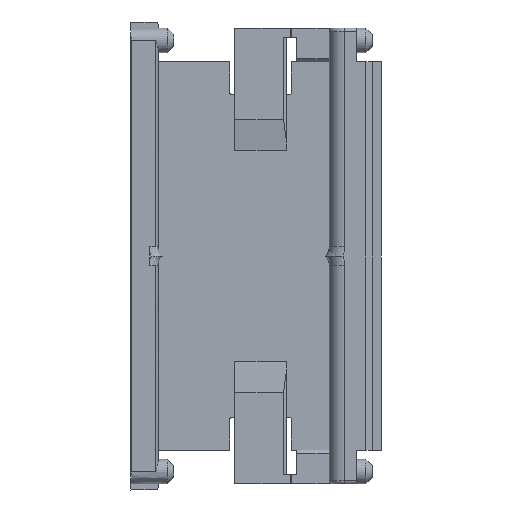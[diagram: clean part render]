
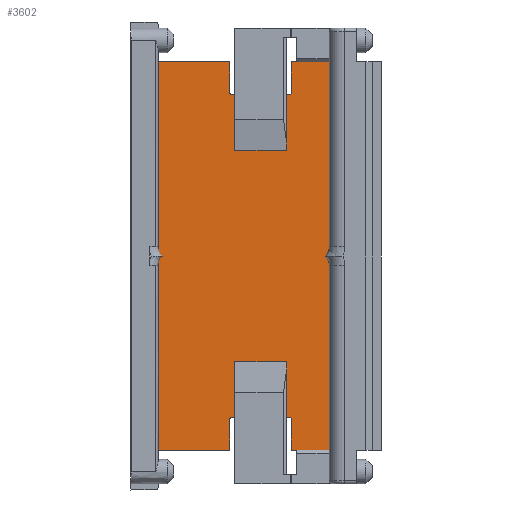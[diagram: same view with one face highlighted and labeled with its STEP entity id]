
A CAD part, front view. The second image highlights one B-rep face of the part: STEP entity #3602.
In plain terms, the highlighted planar face has unit normal (0, -1, 0).
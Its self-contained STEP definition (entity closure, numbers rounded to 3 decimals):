
#258=CARTESIAN_POINT('',(188.961,165.997,106.5));
#259=VERTEX_POINT('',#258);
#266=CARTESIAN_POINT('',(188.961,165.997,136.8));
#267=VERTEX_POINT('',#266);
#268=CARTESIAN_POINT('',(188.961,165.997,106.5));
#269=DIRECTION('',(0.0,0.0,1.0));
#270=VECTOR('',#269,30.3);
#271=LINE('',#268,#270);
#272=EDGE_CURVE('',#259,#267,#271,.T.);
#899=CARTESIAN_POINT('',(216.961,165.997,136.8));
#900=VERTEX_POINT('',#899);
#907=CARTESIAN_POINT('',(216.961,165.997,106.5));
#908=VERTEX_POINT('',#907);
#909=CARTESIAN_POINT('',(216.961,165.997,136.8));
#910=DIRECTION('',(0.0,0.0,-1.0));
#911=VECTOR('',#910,30.3);
#912=LINE('',#909,#911);
#913=EDGE_CURVE('',#900,#908,#912,.T.);
#1154=CARTESIAN_POINT('',(211.595,165.997,106.5));
#1155=VERTEX_POINT('',#1154);
#1229=CARTESIAN_POINT('',(216.961,165.997,106.5));
#1230=DIRECTION('',(-1.0,0.0,0.0));
#1231=VECTOR('',#1230,5.366);
#1232=LINE('',#1229,#1231);
#1233=EDGE_CURVE('',#908,#1155,#1232,.T.);
#1350=CARTESIAN_POINT('',(209.961,165.997,111.544));
#1351=VERTEX_POINT('',#1350);
#1358=CARTESIAN_POINT('',(209.961,165.997,121.));
#1359=VERTEX_POINT('',#1358);
#1360=CARTESIAN_POINT('',(209.961,165.997,111.544));
#1361=DIRECTION('',(0.0,0.0,1.0));
#1362=VECTOR('',#1361,9.456);
#1363=LINE('',#1360,#1362);
#1364=EDGE_CURVE('',#1351,#1359,#1363,.T.);
#1445=CARTESIAN_POINT('',(201.461,165.997,121.));
#1446=VERTEX_POINT('',#1445);
#1453=CARTESIAN_POINT('',(201.461,165.997,111.544));
#1454=VERTEX_POINT('',#1453);
#1455=CARTESIAN_POINT('',(201.461,165.997,121.));
#1456=DIRECTION('',(0.,0.0,-1.0));
#1457=VECTOR('',#1456,9.456);
#1458=LINE('',#1455,#1457);
#1459=EDGE_CURVE('',#1446,#1454,#1458,.T.);
#1559=CARTESIAN_POINT('',(209.961,165.997,121.));
#1560=DIRECTION('',(-1.0,0.0,0.0));
#1561=VECTOR('',#1560,8.5);
#1562=LINE('',#1559,#1561);
#1563=EDGE_CURVE('',#1359,#1446,#1562,.T.);
#1714=CARTESIAN_POINT('',(189.639,165.997,138.3));
#1715=VERTEX_POINT('',#1714);
#1724=CARTESIAN_POINT('',(190.961,165.997,136.8));
#1725=DIRECTION('',(0.0,1.0,0.0));
#1726=DIRECTION('',(1.0,0.0,0.0));
#1727=AXIS2_PLACEMENT_3D('',#1724,#1725,#1726);
#1728=CIRCLE('',#1727,2.0);
#1729=EDGE_CURVE('',#267,#1715,#1728,.T.);
#1760=CARTESIAN_POINT('',(216.284,165.997,138.3));
#1761=VERTEX_POINT('',#1760);
#1768=CARTESIAN_POINT('',(214.961,165.997,136.8));
#1769=DIRECTION('',(0.0,1.0,0.0));
#1770=DIRECTION('',(0.,0.0,-1.0));
#1771=AXIS2_PLACEMENT_3D('',#1768,#1769,#1770);
#1772=CIRCLE('',#1771,2.0);
#1773=EDGE_CURVE('',#1761,#900,#1772,.T.);
#1785=CARTESIAN_POINT('',(200.661,165.997,106.5));
#1786=VERTEX_POINT('',#1785);
#1787=CARTESIAN_POINT('',(200.661,165.997,111.544));
#1788=VERTEX_POINT('',#1787);
#1789=CARTESIAN_POINT('',(200.661,165.997,106.5));
#1790=DIRECTION('',(0.0,0.0,1.0));
#1791=VECTOR('',#1790,5.044);
#1792=LINE('',#1789,#1791);
#1793=EDGE_CURVE('',#1786,#1788,#1792,.T.);
#1846=CARTESIAN_POINT('',(201.061,165.997,111.544));
#1847=DIRECTION('',(0.0,1.0,0.0));
#1848=DIRECTION('',(1.0,0.0,0.0));
#1849=AXIS2_PLACEMENT_3D('',#1846,#1847,#1848);
#1850=CIRCLE('',#1849,0.4);
#1851=EDGE_CURVE('',#1788,#1454,#1850,.T.);
#1891=CARTESIAN_POINT('',(210.761,165.997,111.544));
#1892=VERTEX_POINT('',#1891);
#1893=CARTESIAN_POINT('',(210.361,165.997,111.544));
#1894=DIRECTION('',(0.0,1.0,0.0));
#1895=DIRECTION('',(1.0,0.0,0.0));
#1896=AXIS2_PLACEMENT_3D('',#1893,#1894,#1895);
#1897=CIRCLE('',#1896,0.4);
#1898=EDGE_CURVE('',#1351,#1892,#1897,.T.);
#1924=CARTESIAN_POINT('',(210.761,165.997,106.5));
#1925=VERTEX_POINT('',#1924);
#1926=CARTESIAN_POINT('',(210.761,165.997,111.544));
#1927=DIRECTION('',(0.0,0.0,-1.0));
#1928=VECTOR('',#1927,5.044);
#1929=LINE('',#1926,#1928);
#1930=EDGE_CURVE('',#1892,#1925,#1929,.T.);
#2366=CARTESIAN_POINT('',(210.761,165.997,106.5));
#2367=DIRECTION('',(1.0,0.0,0.0));
#2368=VECTOR('',#2367,0.834);
#2369=LINE('',#2366,#2368);
#2370=EDGE_CURVE('',#1925,#1155,#2369,.T.);
#2430=CARTESIAN_POINT('',(188.961,165.997,106.5));
#2431=DIRECTION('',(1.0,0.0,0.0));
#2432=VECTOR('',#2431,11.7);
#2433=LINE('',#2430,#2432);
#2434=EDGE_CURVE('',#259,#1786,#2433,.T.);
#2834=CARTESIAN_POINT('',(216.961,165.997,170.1));
#2835=VERTEX_POINT('',#2834);
#2842=CARTESIAN_POINT('',(216.961,165.997,139.8));
#2843=VERTEX_POINT('',#2842);
#2844=CARTESIAN_POINT('',(216.961,165.997,139.8));
#2845=DIRECTION('',(0.0,0.0,1.0));
#2846=VECTOR('',#2845,30.3);
#2847=LINE('',#2844,#2846);
#2848=EDGE_CURVE('',#2843,#2835,#2847,.T.);
#3057=CARTESIAN_POINT('',(211.595,165.997,170.1));
#3058=VERTEX_POINT('',#3057);
#3108=CARTESIAN_POINT('',(216.961,165.997,170.1));
#3109=DIRECTION('',(-1.0,0.0,0.0));
#3110=VECTOR('',#3109,5.366);
#3111=LINE('',#3108,#3110);
#3112=EDGE_CURVE('',#2835,#3058,#3111,.T.);
#3224=CARTESIAN_POINT('',(209.961,165.997,155.6));
#3225=VERTEX_POINT('',#3224);
#3232=CARTESIAN_POINT('',(209.961,165.997,165.056));
#3233=VERTEX_POINT('',#3232);
#3234=CARTESIAN_POINT('',(209.961,165.997,165.056));
#3235=DIRECTION('',(0.0,0.0,-1.0));
#3236=VECTOR('',#3235,9.456);
#3237=LINE('',#3234,#3236);
#3238=EDGE_CURVE('',#3233,#3225,#3237,.T.);
#3326=CARTESIAN_POINT('',(201.461,165.997,165.056));
#3327=VERTEX_POINT('',#3326);
#3334=CARTESIAN_POINT('',(201.461,165.997,155.6));
#3335=VERTEX_POINT('',#3334);
#3336=CARTESIAN_POINT('',(201.461,165.997,155.6));
#3337=DIRECTION('',(0.,0.0,1.0));
#3338=VECTOR('',#3337,9.456);
#3339=LINE('',#3336,#3338);
#3340=EDGE_CURVE('',#3335,#3327,#3339,.T.);
#3409=CARTESIAN_POINT('',(209.961,165.997,155.6));
#3410=DIRECTION('',(-1.0,0.0,0.0));
#3411=VECTOR('',#3410,8.5);
#3412=LINE('',#3409,#3411);
#3413=EDGE_CURVE('',#3225,#3335,#3412,.T.);
#3483=CARTESIAN_POINT('',(188.961,165.997,139.8));
#3484=VERTEX_POINT('',#3483);
#3485=CARTESIAN_POINT('',(190.961,165.997,139.8));
#3486=DIRECTION('',(0.0,-1.0,0.0));
#3487=DIRECTION('',(1.0,0.0,0.0));
#3488=AXIS2_PLACEMENT_3D('',#3485,#3486,#3487);
#3489=CIRCLE('',#3488,2.0);
#3490=EDGE_CURVE('',#3484,#1715,#3489,.T.);
#3510=CARTESIAN_POINT('',(214.961,165.997,139.8));
#3511=DIRECTION('',(0.0,-1.0,0.0));
#3512=DIRECTION('',(0.,0.0,1.0));
#3513=AXIS2_PLACEMENT_3D('',#3510,#3511,#3512);
#3514=CIRCLE('',#3513,2.0);
#3515=EDGE_CURVE('',#1761,#2843,#3514,.T.);
#3520=CARTESIAN_POINT('',(203.514,165.997,155.058));
#3521=DIRECTION('',(0.0,1.0,0.0));
#3522=DIRECTION('',(0.0,0.0,1.0));
#3523=AXIS2_PLACEMENT_3D('',#3520,#3521,#3522);
#3524=PLANE('',#3523);
#3525=ORIENTED_EDGE('',*,*,#3515,.T.);
#3526=ORIENTED_EDGE('',*,*,#2848,.T.);
#3527=ORIENTED_EDGE('',*,*,#3112,.T.);
#3528=CARTESIAN_POINT('',(210.761,165.997,170.1));
#3529=VERTEX_POINT('',#3528);
#3530=CARTESIAN_POINT('',(210.761,165.997,170.1));
#3531=DIRECTION('',(1.0,0.0,0.0));
#3532=VECTOR('',#3531,0.834);
#3533=LINE('',#3530,#3532);
#3534=EDGE_CURVE('',#3529,#3058,#3533,.T.);
#3535=ORIENTED_EDGE('',*,*,#3534,.F.);
#3536=CARTESIAN_POINT('',(210.761,165.997,165.056));
#3537=VERTEX_POINT('',#3536);
#3538=CARTESIAN_POINT('',(210.761,165.997,165.056));
#3539=DIRECTION('',(0.0,0.0,1.0));
#3540=VECTOR('',#3539,5.044);
#3541=LINE('',#3538,#3540);
#3542=EDGE_CURVE('',#3537,#3529,#3541,.T.);
#3543=ORIENTED_EDGE('',*,*,#3542,.F.);
#3544=CARTESIAN_POINT('',(210.361,165.997,165.056));
#3545=DIRECTION('',(0.0,-1.0,0.0));
#3546=DIRECTION('',(1.0,0.0,0.0));
#3547=AXIS2_PLACEMENT_3D('',#3544,#3545,#3546);
#3548=CIRCLE('',#3547,0.4);
#3549=EDGE_CURVE('',#3233,#3537,#3548,.T.);
#3550=ORIENTED_EDGE('',*,*,#3549,.F.);
#3551=ORIENTED_EDGE('',*,*,#3238,.T.);
#3552=ORIENTED_EDGE('',*,*,#3413,.T.);
#3553=ORIENTED_EDGE('',*,*,#3340,.T.);
#3554=CARTESIAN_POINT('',(200.661,165.997,165.056));
#3555=VERTEX_POINT('',#3554);
#3556=CARTESIAN_POINT('',(201.061,165.997,165.056));
#3557=DIRECTION('',(0.0,-1.0,0.0));
#3558=DIRECTION('',(1.0,0.0,0.0));
#3559=AXIS2_PLACEMENT_3D('',#3556,#3557,#3558);
#3560=CIRCLE('',#3559,0.4);
#3561=EDGE_CURVE('',#3555,#3327,#3560,.T.);
#3562=ORIENTED_EDGE('',*,*,#3561,.F.);
#3563=CARTESIAN_POINT('',(200.661,165.997,170.1));
#3564=VERTEX_POINT('',#3563);
#3565=CARTESIAN_POINT('',(200.661,165.997,170.1));
#3566=DIRECTION('',(0.0,0.0,-1.0));
#3567=VECTOR('',#3566,5.044);
#3568=LINE('',#3565,#3567);
#3569=EDGE_CURVE('',#3564,#3555,#3568,.T.);
#3570=ORIENTED_EDGE('',*,*,#3569,.F.);
#3571=CARTESIAN_POINT('',(188.961,165.997,170.1));
#3572=VERTEX_POINT('',#3571);
#3573=CARTESIAN_POINT('',(188.961,165.997,170.1));
#3574=DIRECTION('',(1.0,0.0,0.0));
#3575=VECTOR('',#3574,11.7);
#3576=LINE('',#3573,#3575);
#3577=EDGE_CURVE('',#3572,#3564,#3576,.T.);
#3578=ORIENTED_EDGE('',*,*,#3577,.F.);
#3579=CARTESIAN_POINT('',(188.961,165.997,170.1));
#3580=DIRECTION('',(0.0,0.0,-1.0));
#3581=VECTOR('',#3580,30.3);
#3582=LINE('',#3579,#3581);
#3583=EDGE_CURVE('',#3572,#3484,#3582,.T.);
#3584=ORIENTED_EDGE('',*,*,#3583,.T.);
#3585=ORIENTED_EDGE('',*,*,#3490,.T.);
#3586=ORIENTED_EDGE('',*,*,#1729,.F.);
#3587=ORIENTED_EDGE('',*,*,#272,.F.);
#3588=ORIENTED_EDGE('',*,*,#2434,.T.);
#3589=ORIENTED_EDGE('',*,*,#1793,.T.);
#3590=ORIENTED_EDGE('',*,*,#1851,.T.);
#3591=ORIENTED_EDGE('',*,*,#1459,.F.);
#3592=ORIENTED_EDGE('',*,*,#1563,.F.);
#3593=ORIENTED_EDGE('',*,*,#1364,.F.);
#3594=ORIENTED_EDGE('',*,*,#1898,.T.);
#3595=ORIENTED_EDGE('',*,*,#1930,.T.);
#3596=ORIENTED_EDGE('',*,*,#2370,.T.);
#3597=ORIENTED_EDGE('',*,*,#1233,.F.);
#3598=ORIENTED_EDGE('',*,*,#913,.F.);
#3599=ORIENTED_EDGE('',*,*,#1773,.F.);
#3600=EDGE_LOOP('',(#3525,#3526,#3527,#3535,#3543,#3550,#3551,#3552,#3553,#3562,#3570,#3578,#3584,#3585,#3586,#3587,#3588,#3589,#3590,#3591,#3592,#3593,#3594,#3595,#3596,#3597,#3598,#3599));
#3601=FACE_OUTER_BOUND('',#3600,.T.);
#3602=ADVANCED_FACE('',(#3601),#3524,.F.);
